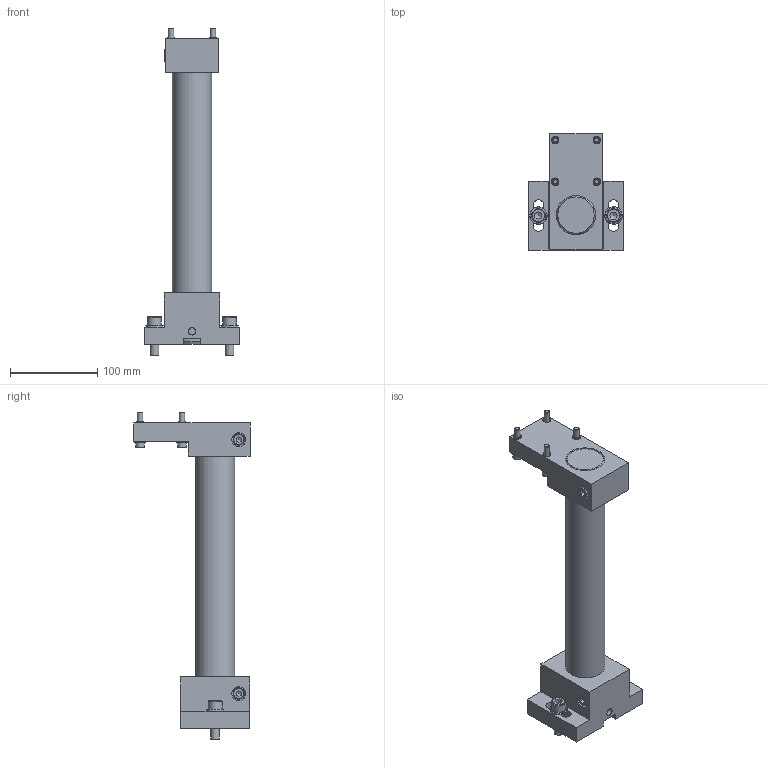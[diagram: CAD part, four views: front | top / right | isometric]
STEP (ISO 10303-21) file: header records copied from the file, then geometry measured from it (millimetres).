
FILE_DESCRIPTION((''),'2;1');
FILE_NAME('C:\Test\stp\4000068.stp','2006-04-12T15:42:41',('is'),(''),'Autodesk Inventor 10','Autodesk Inventor 10','');
FILE_SCHEMA(('AUTOMOTIVE_DESIGN { 1 0 10303 214 1 1 1 1 }'));
Length unit declared in the file: millimetre
Products named in the file (4): 4000068; 4000073; 4000077; 4000074
Assembly tree (3 placements, depth 2):
  4000068
    4000073
    4000077
    4000074
Bounding box: 108 x 133 x 375.4 mm (x, y, z)
Volume: 993787.6 mm3; surface area: 142414.5 mm2
Topology: 3 solids, 5 shells, 241 faces, 551 edges, 349 vertices
Faces by surface type: plane 129, cylinder 37, bspline 35, cone 28, torus 12
Full cylindrical faces by diameter (mm): 6 x4, 6.4 x4, 8 x4, 9 x2, 10 x6, 10.5 x2, 12 x4, 13 x2, 16 x2, 20 x2, 45 x1
Entity records: 6772 total; most frequent: CARTESIAN_POINT 1870, DIRECTION 980, ORIENTED_EDGE 866, EDGE_CURVE 433, AXIS2_PLACEMENT_3D 393, EDGE_LOOP 388, VERTEX_POINT 327, FACE_OUTER_BOUND 241
